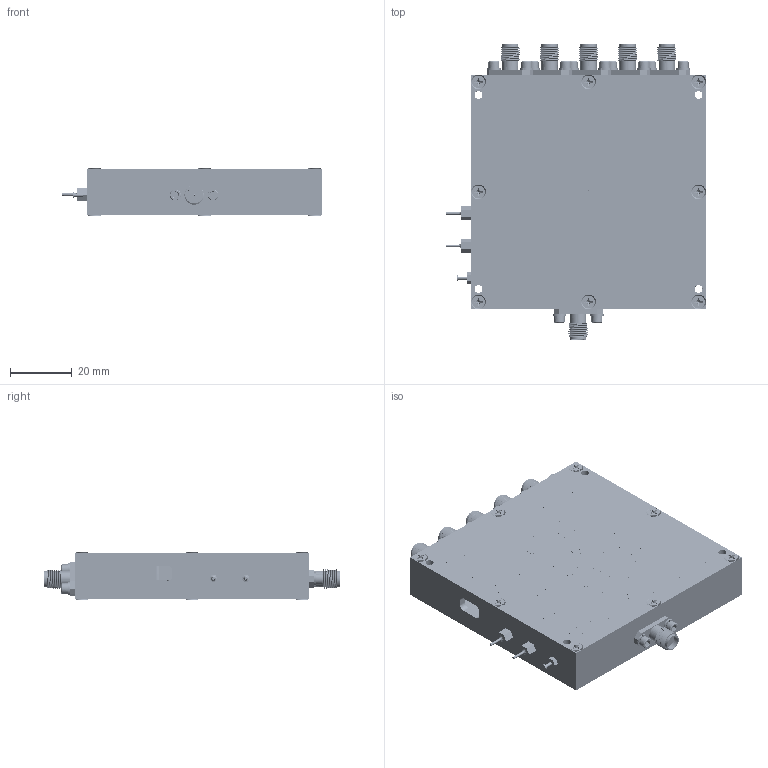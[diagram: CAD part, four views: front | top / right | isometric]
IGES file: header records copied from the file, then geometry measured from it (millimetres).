
Start section: C
Global section: file name: PMI-055.igs; native system:  By UGS Corp.; preprocessor: XPlus GENERIC/IGES 3.0; author: Author; organization: Title; date: 20141110.123543; units: millimetre
Bounding box: 84.33 x 95.76 x 15.3 mm (x, y, z)
Surface area: 45537.8 mm2 (no closed solid volume)
Topology: 0 solids, 0 shells, 5706 faces, 46124 edges, 46088 vertices
Faces by surface type: bspline 5706
